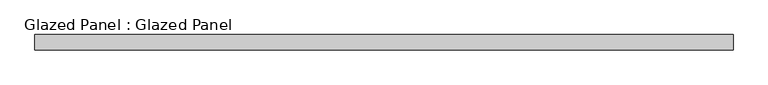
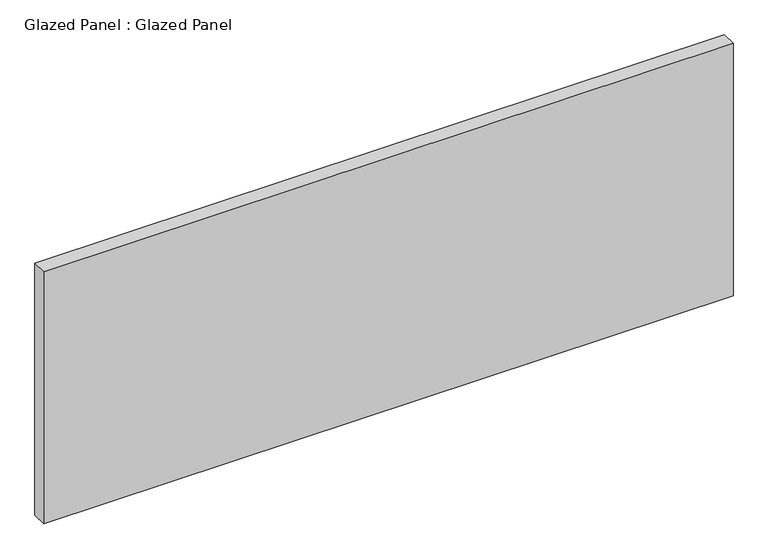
"""IFC4 building model written with IfcOpenShell, lengths in millimetres: plate geometry, Glazed Panel : Glazed Panel."""

from ifc_helpers import new_model, si_unit, origin, origin_with_axes, place, context, project, spatial, polyline, outline, extrude, source, transform, mapped, element, save


def glazed_panel_glazed_panel_920c02e9(model_context):
    return source(origin(), model_context, "Body", "SweptSolid", [
        extrude(outline(polyline([(584.9807766, 38.1), (-584.9807766, 38.1), (-584.9807766, 63.5), (584.9807766, 63.5), (584.9807766, 38.1)])), origin_with_axes(), (0.0, 0.0, 1.0), 452.1422814),
    ])


if __name__ == "__main__":
    model = new_model("IFC4")
    model_context = context("Model", 3, world=origin())
    ifc_project = project(units=[si_unit("LENGTHUNIT", "METRE", prefix="MILLI")], contexts=[model_context])
    site = spatial("IfcSite", under=ifc_project)
    building = spatial("IfcBuilding", under=site)
    placement = place(None, origin())
    glazed_panel_glazed_panel_shape = glazed_panel_glazed_panel_920c02e9(model_context)
    element("IfcPlate", 1, ObjectType="Glazed Panel : Glazed Panel", at=placement, inside=building, context=model_context, shape_type="MappedRepresentation", body=[
        mapped(glazed_panel_glazed_panel_shape, transform((0.0, 0.0, 0.0), x_axis=(1.0, 0.0, 0.0), y_axis=(0.0, 1.0, 0.0), z_axis=(0.0, 0.0, 1.0))),
    ])
    save(model, "model.ifc")
